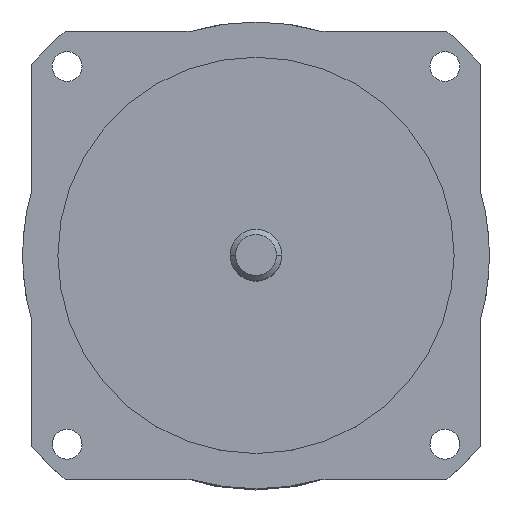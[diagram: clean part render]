
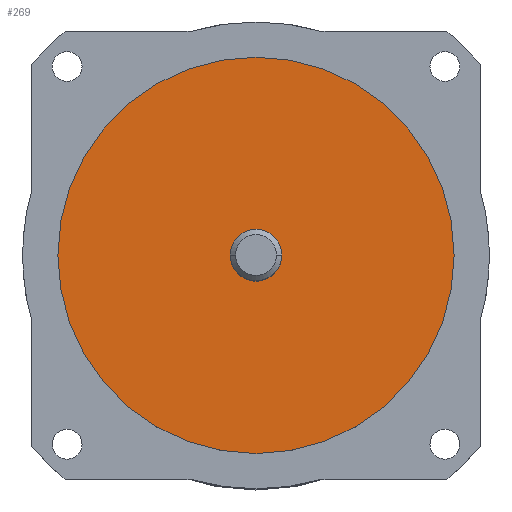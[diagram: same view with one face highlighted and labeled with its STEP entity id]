
A CAD part, top view. The second image highlights one B-rep face of the part: STEP entity #269.
In plain terms, the highlighted planar face has unit normal (0, 0, 1).
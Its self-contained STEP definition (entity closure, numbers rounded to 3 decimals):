
#7 = CARTESIAN_POINT ( 'NONE',  ( -36.51, 0., 1.6 ) ) ;
#61 = DIRECTION ( 'NONE',  ( 1., 0., 0. ) ) ;
#99 = EDGE_CURVE ( 'NONE', #567, #119, #932, .T. ) ;
#119 = VERTEX_POINT ( 'NONE', #7 ) ;
#189 = EDGE_CURVE ( 'NONE', #119, #567, #772, .T. ) ;
#212 = EDGE_CURVE ( 'NONE', #1202, #794, #805, .T. ) ;
#254 = AXIS2_PLACEMENT_3D ( 'NONE', #1171, #518, #1279 ) ;
#269 = ADVANCED_FACE ( 'NONE', ( #946, #626 ), #1302, .T. ) ;
#280 = CARTESIAN_POINT ( 'NONE',  ( -4.763, 0., 1.6 ) ) ;
#334 = AXIS2_PLACEMENT_3D ( 'NONE', #625, #1377, #744 ) ;
#427 = CARTESIAN_POINT ( 'NONE',  ( 0., 0., 1.6 ) ) ;
#460 = DIRECTION ( 'NONE',  ( 0., 0., 1. ) ) ;
#518 = DIRECTION ( 'NONE',  ( 0., 0., -1. ) ) ;
#538 = ORIENTED_EDGE ( 'NONE', *, *, #653, .T. ) ;
#567 = VERTEX_POINT ( 'NONE', #914 ) ;
#596 = AXIS2_PLACEMENT_3D ( 'NONE', #427, #1084, #1409 ) ;
#625 = CARTESIAN_POINT ( 'NONE',  ( 0., 0., 1.6 ) ) ;
#626 = FACE_BOUND ( 'NONE', #1388, .T. ) ;
#653 = EDGE_CURVE ( 'NONE', #794, #1202, #770, .T. ) ;
#739 = DIRECTION ( 'NONE',  ( 0., 0., -1. ) ) ;
#744 = DIRECTION ( 'NONE',  ( 1., 0., 0. ) ) ;
#762 = AXIS2_PLACEMENT_3D ( 'NONE', #1114, #460, #1225 ) ;
#770 = CIRCLE ( 'NONE', #818, 4.763 ) ;
#772 = CIRCLE ( 'NONE', #334, 36.51 ) ;
#794 = VERTEX_POINT ( 'NONE', #280 ) ;
#805 = CIRCLE ( 'NONE', #254, 4.763 ) ;
#818 = AXIS2_PLACEMENT_3D ( 'NONE', #1372, #739, #61 ) ;
#914 = CARTESIAN_POINT ( 'NONE',  ( 36.51, 0., 1.6 ) ) ;
#932 = CIRCLE ( 'NONE', #762, 36.51 ) ;
#946 = FACE_OUTER_BOUND ( 'NONE', #1389, .T. ) ;
#971 = ORIENTED_EDGE ( 'NONE', *, *, #189, .T. ) ;
#1084 = DIRECTION ( 'NONE',  ( 0., 0., 1. ) ) ;
#1103 = ORIENTED_EDGE ( 'NONE', *, *, #212, .T. ) ;
#1114 = CARTESIAN_POINT ( 'NONE',  ( 0., 0., 1.6 ) ) ;
#1171 = CARTESIAN_POINT ( 'NONE',  ( 0., 0., 1.6 ) ) ;
#1174 = ORIENTED_EDGE ( 'NONE', *, *, #99, .T. ) ;
#1202 = VERTEX_POINT ( 'NONE', #1295 ) ;
#1225 = DIRECTION ( 'NONE',  ( 1., 0., 0. ) ) ;
#1279 = DIRECTION ( 'NONE',  ( 1., 0., 0. ) ) ;
#1295 = CARTESIAN_POINT ( 'NONE',  ( 4.763, 0., 1.6 ) ) ;
#1302 = PLANE ( 'NONE',  #596 ) ;
#1372 = CARTESIAN_POINT ( 'NONE',  ( 0., 0., 1.6 ) ) ;
#1377 = DIRECTION ( 'NONE',  ( 0., 0., 1. ) ) ;
#1388 = EDGE_LOOP ( 'NONE', ( #538, #1103 ) ) ;
#1389 = EDGE_LOOP ( 'NONE', ( #971, #1174 ) ) ;
#1409 = DIRECTION ( 'NONE',  ( 1., 0., 0. ) ) ;
